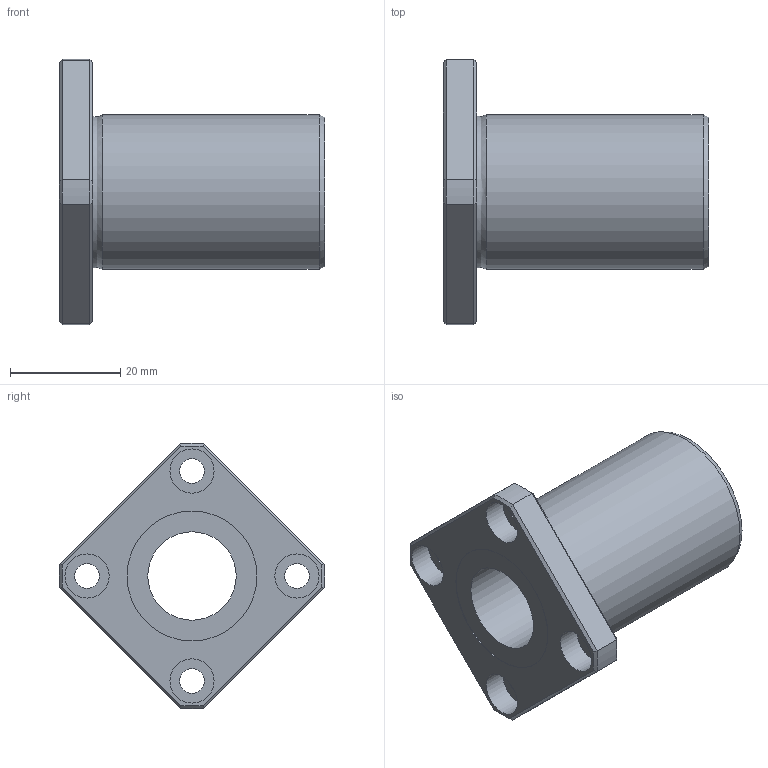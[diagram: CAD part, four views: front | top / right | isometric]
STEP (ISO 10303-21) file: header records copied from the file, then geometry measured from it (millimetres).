
FILE_DESCRIPTION((''),'2;1');
FILE_NAME('D:\製品 (図面)\カタログ用3D\メンテナンスフリー関連\STEP形式\LFK-MF\LFK16MF.stp','2010-06-01T15:51:58',('Tsuchiya'),(''),'Autodesk Inventor 10','Autodesk Inventor 10','');
FILE_SCHEMA(('AUTOMOTIVE_DESIGN { 1 0 10303 214 1 1 1 1 }'));
Length unit declared in the file: millimetre
Products named in the file (1): LFK16MF
Bounding box: 48 x 47.98 x 47.98 mm (x, y, z)
Volume: 23190.3 mm3; surface area: 9564.2 mm2
Topology: 1 solids, 1 shells, 47 faces, 96 edges, 58 vertices
Faces by surface type: plane 21, cylinder 16, cone 8, torus 1, bspline 1
Full cylindrical faces by diameter (mm): 4.5 x4, 8 x4, 16 x1, 23.5 x2, 28 x1
Entity records: 1275 total; most frequent: CARTESIAN_POINT 298, DIRECTION 202, ORIENTED_EDGE 164, AXIS2_PLACEMENT_3D 89, EDGE_CURVE 82, EDGE_LOOP 78, VERTEX_POINT 58, FACE_OUTER_BOUND 47
